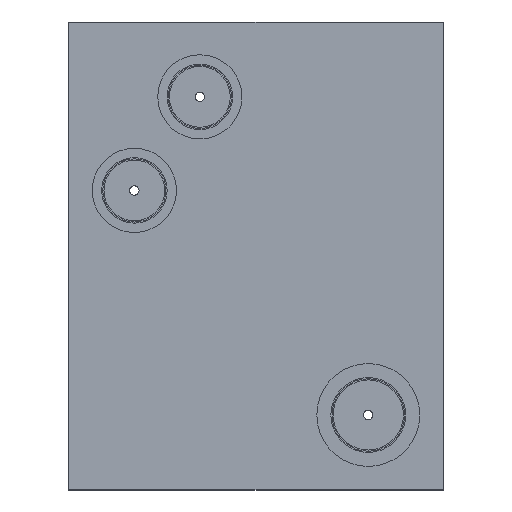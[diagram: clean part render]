
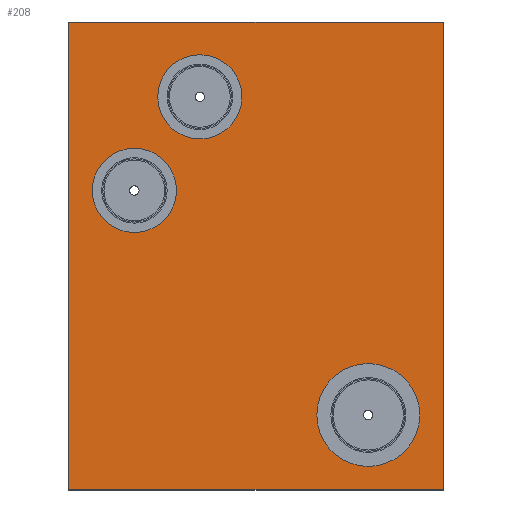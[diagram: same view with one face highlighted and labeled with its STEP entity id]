
A CAD part, top view. The second image highlights one B-rep face of the part: STEP entity #208.
In plain terms, the highlighted planar face has unit normal (0, 0, 1).
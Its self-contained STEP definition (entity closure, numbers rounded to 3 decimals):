
#13 = DIRECTION ( 'NONE',  ( -1., 0., 0. ) ) ;
#21 = AXIS2_PLACEMENT_3D ( 'NONE', #1801, #4230, #1835 ) ;
#26 = EDGE_CURVE ( 'NONE', #1114, #2931, #295, .T. ) ;
#50 = ORIENTED_EDGE ( 'NONE', *, *, #4950, .T. ) ;
#58 = ORIENTED_EDGE ( 'NONE', *, *, #1733, .T. ) ;
#78 = AXIS2_PLACEMENT_3D ( 'NONE', #4695, #4363, #2015 ) ;
#90 = CIRCLE ( 'NONE', #1834, 5.5 ) ;
#140 = EDGE_LOOP ( 'NONE', ( #586, #4590, #4245, #58 ) ) ;
#154 = VERTEX_POINT ( 'NONE', #4351 ) ;
#198 = VERTEX_POINT ( 'NONE', #1160 ) ;
#208 = ADVANCED_FACE ( 'NONE', ( #4378, #1004, #401, #4431 ), #2398, .F. ) ;
#214 = CIRCLE ( 'NONE', #1118, 4.5 ) ;
#229 = LINE ( 'NONE', #4175, #1732 ) ;
#236 = CARTESIAN_POINT ( 'NONE',  ( 2.5, 32., 5. ) ) ;
#275 = EDGE_CURVE ( 'NONE', #198, #4028, #229, .T. ) ;
#295 = LINE ( 'NONE', #360, #1545 ) ;
#360 = CARTESIAN_POINT ( 'NONE',  ( 0., 0., 5. ) ) ;
#401 = FACE_BOUND ( 'NONE', #2331, .T. ) ;
#413 = EDGE_LOOP ( 'NONE', ( #849, #4222 ) ) ;
#586 = ORIENTED_EDGE ( 'NONE', *, *, #26, .T. ) ;
#816 = CARTESIAN_POINT ( 'NONE',  ( 26.5, 8., 5. ) ) ;
#836 = CIRCLE ( 'NONE', #78, 5.5 ) ;
#849 = ORIENTED_EDGE ( 'NONE', *, *, #2412, .T. ) ;
#985 = DIRECTION ( 'NONE',  ( 1., 0., 0. ) ) ;
#1004 = FACE_BOUND ( 'NONE', #1513, .T. ) ;
#1020 = EDGE_CURVE ( 'NONE', #3725, #1490, #4086, .T. ) ;
#1089 = DIRECTION ( 'NONE',  ( -1., 0., 0. ) ) ;
#1114 = VERTEX_POINT ( 'NONE', #1876 ) ;
#1118 = AXIS2_PLACEMENT_3D ( 'NONE', #2081, #3650, #1304 ) ;
#1160 = CARTESIAN_POINT ( 'NONE',  ( 40., 0., 5. ) ) ;
#1181 = DIRECTION ( 'NONE',  ( 0., 0., -1. ) ) ;
#1245 = VERTEX_POINT ( 'NONE', #3856 ) ;
#1292 = DIRECTION ( 'NONE',  ( -1., 0., 0. ) ) ;
#1304 = DIRECTION ( 'NONE',  ( -1., 0., 0. ) ) ;
#1413 = VERTEX_POINT ( 'NONE', #2497 ) ;
#1490 = VERTEX_POINT ( 'NONE', #236 ) ;
#1513 = EDGE_LOOP ( 'NONE', ( #4419, #4196 ) ) ;
#1545 = VECTOR ( 'NONE', #3075, 1000. ) ;
#1732 = VECTOR ( 'NONE', #1894, 1000. ) ;
#1733 = EDGE_CURVE ( 'NONE', #4028, #1114, #4017, .T. ) ;
#1801 = CARTESIAN_POINT ( 'NONE',  ( 7., 32., 5. ) ) ;
#1834 = AXIS2_PLACEMENT_3D ( 'NONE', #4627, #2686, #3036 ) ;
#1835 = DIRECTION ( 'NONE',  ( -1., 0., 0. ) ) ;
#1842 = CARTESIAN_POINT ( 'NONE',  ( 7., 32., 5. ) ) ;
#1876 = CARTESIAN_POINT ( 'NONE',  ( 0., 50., 5. ) ) ;
#1894 = DIRECTION ( 'NONE',  ( 0., 1., 0. ) ) ;
#1968 = DIRECTION ( 'NONE',  ( -1., 0., 0. ) ) ;
#2015 = DIRECTION ( 'NONE',  ( -1., 0., 0. ) ) ;
#2081 = CARTESIAN_POINT ( 'NONE',  ( 14., 42., 5. ) ) ;
#2277 = EDGE_CURVE ( 'NONE', #2860, #154, #90, .T. ) ;
#2315 = CARTESIAN_POINT ( 'NONE',  ( 14., 42., 5. ) ) ;
#2331 = EDGE_LOOP ( 'NONE', ( #50, #4862 ) ) ;
#2398 = PLANE ( 'NONE',  #3401 ) ;
#2412 = EDGE_CURVE ( 'NONE', #1413, #1245, #2498, .T. ) ;
#2497 = CARTESIAN_POINT ( 'NONE',  ( 18.5, 42., 5. ) ) ;
#2498 = CIRCLE ( 'NONE', #3521, 4.5 ) ;
#2523 = EDGE_CURVE ( 'NONE', #1490, #3725, #2640, .T. ) ;
#2578 = CARTESIAN_POINT ( 'NONE',  ( 0., 0., 5. ) ) ;
#2640 = CIRCLE ( 'NONE', #21, 4.5 ) ;
#2686 = DIRECTION ( 'NONE',  ( 0., 0., -1. ) ) ;
#2692 = DIRECTION ( 'NONE',  ( 0., 0., -1. ) ) ;
#2766 = CARTESIAN_POINT ( 'NONE',  ( 11.5, 32., 5. ) ) ;
#2860 = VERTEX_POINT ( 'NONE', #816 ) ;
#2899 = CARTESIAN_POINT ( 'NONE',  ( 40., 50., 5. ) ) ;
#2931 = VERTEX_POINT ( 'NONE', #4406 ) ;
#3036 = DIRECTION ( 'NONE',  ( -1., 0., 0. ) ) ;
#3040 = EDGE_CURVE ( 'NONE', #1245, #1413, #214, .T. ) ;
#3075 = DIRECTION ( 'NONE',  ( 0., -1., 0. ) ) ;
#3210 = CARTESIAN_POINT ( 'NONE',  ( 0., 50., 5. ) ) ;
#3401 = AXIS2_PLACEMENT_3D ( 'NONE', #3527, #1181, #1968 ) ;
#3521 = AXIS2_PLACEMENT_3D ( 'NONE', #2315, #4306, #13 ) ;
#3527 = CARTESIAN_POINT ( 'NONE',  ( 0., 0., 5. ) ) ;
#3650 = DIRECTION ( 'NONE',  ( 0., 0., -1. ) ) ;
#3725 = VERTEX_POINT ( 'NONE', #2766 ) ;
#3856 = CARTESIAN_POINT ( 'NONE',  ( 9.5, 42., 5. ) ) ;
#3868 = VECTOR ( 'NONE', #985, 1000. ) ;
#4017 = LINE ( 'NONE', #3210, #5009 ) ;
#4028 = VERTEX_POINT ( 'NONE', #2899 ) ;
#4086 = CIRCLE ( 'NONE', #4486, 4.5 ) ;
#4175 = CARTESIAN_POINT ( 'NONE',  ( 40., 0., 5. ) ) ;
#4196 = ORIENTED_EDGE ( 'NONE', *, *, #2523, .T. ) ;
#4222 = ORIENTED_EDGE ( 'NONE', *, *, #3040, .T. ) ;
#4230 = DIRECTION ( 'NONE',  ( 0., 0., -1. ) ) ;
#4245 = ORIENTED_EDGE ( 'NONE', *, *, #275, .T. ) ;
#4299 = EDGE_CURVE ( 'NONE', #2931, #198, #4667, .T. ) ;
#4306 = DIRECTION ( 'NONE',  ( 0., 0., -1. ) ) ;
#4351 = CARTESIAN_POINT ( 'NONE',  ( 37.5, 8., 5. ) ) ;
#4363 = DIRECTION ( 'NONE',  ( 0., 0., -1. ) ) ;
#4378 = FACE_BOUND ( 'NONE', #413, .T. ) ;
#4406 = CARTESIAN_POINT ( 'NONE',  ( 0., 0., 5. ) ) ;
#4419 = ORIENTED_EDGE ( 'NONE', *, *, #1020, .T. ) ;
#4431 = FACE_OUTER_BOUND ( 'NONE', #140, .T. ) ;
#4486 = AXIS2_PLACEMENT_3D ( 'NONE', #1842, #2692, #1089 ) ;
#4590 = ORIENTED_EDGE ( 'NONE', *, *, #4299, .T. ) ;
#4627 = CARTESIAN_POINT ( 'NONE',  ( 32., 8., 5. ) ) ;
#4667 = LINE ( 'NONE', #2578, #3868 ) ;
#4695 = CARTESIAN_POINT ( 'NONE',  ( 32., 8., 5. ) ) ;
#4862 = ORIENTED_EDGE ( 'NONE', *, *, #2277, .T. ) ;
#4950 = EDGE_CURVE ( 'NONE', #154, #2860, #836, .T. ) ;
#5009 = VECTOR ( 'NONE', #1292, 1000. ) ;
